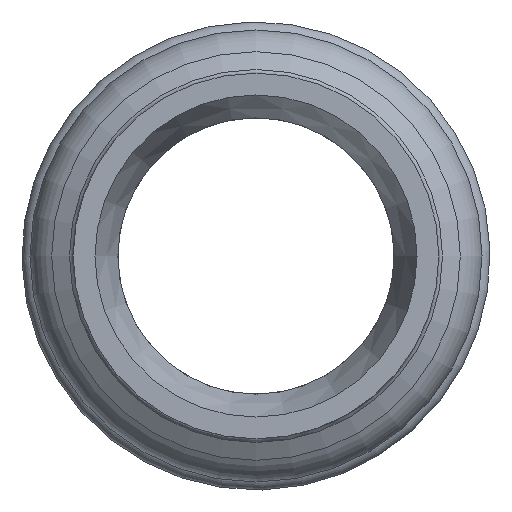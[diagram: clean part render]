
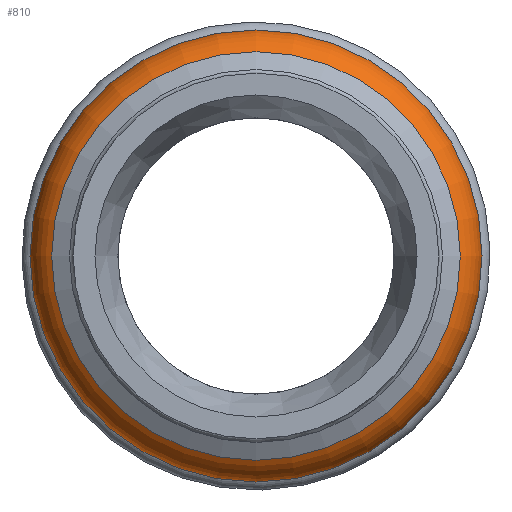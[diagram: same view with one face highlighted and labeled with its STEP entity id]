
A CAD part, left-side view. The second image highlights one B-rep face of the part: STEP entity #810.
In plain terms, the highlighted toroidal (fillet/blend) face has major radius 12.55 mm and minor radius 3 mm.
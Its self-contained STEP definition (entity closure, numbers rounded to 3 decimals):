
#628=CARTESIAN_POINT('',(-23.534,13.0,0.0));
#629=VERTEX_POINT('',#628);
#630=CARTESIAN_POINT('',(-23.534,0.,0.0));
#631=DIRECTION('',(1.0,0.0,0.0));
#632=DIRECTION('',(0.0,-1.0,0.0));
#633=AXIS2_PLACEMENT_3D('',#630,#631,#632);
#634=CIRCLE('',#633,13.);
#635=EDGE_CURVE('',#629,#629,#634,.T.);
#772=CARTESIAN_POINT('',(-29.098,14.05,0.0));
#773=VERTEX_POINT('',#772);
#774=CARTESIAN_POINT('',(-29.098,0.,0.0));
#775=DIRECTION('',(1.0,0.0,0.0));
#776=DIRECTION('',(0.0,1.0,0.0));
#777=AXIS2_PLACEMENT_3D('',#774,#775,#776);
#778=CIRCLE('',#777,14.05);
#779=EDGE_CURVE('',#773,#773,#778,.T.);
#799=CARTESIAN_POINT('',(-26.5,0.,0.0));
#800=DIRECTION('',(1.0,0.,0.0));
#801=DIRECTION('',(0.0,0.0,-1.0));
#802=AXIS2_PLACEMENT_3D('',#799,#800,#801);
#803=TOROIDAL_SURFACE('',#802,12.55,3.0);
#804=ORIENTED_EDGE('',*,*,#779,.T.);
#805=EDGE_LOOP('',(#804));
#806=FACE_OUTER_BOUND('',#805,.T.);
#807=ORIENTED_EDGE('',*,*,#635,.F.);
#808=EDGE_LOOP('',(#807));
#809=FACE_BOUND('',#808,.T.);
#810=ADVANCED_FACE('',(#806,#809),#803,.T.);
